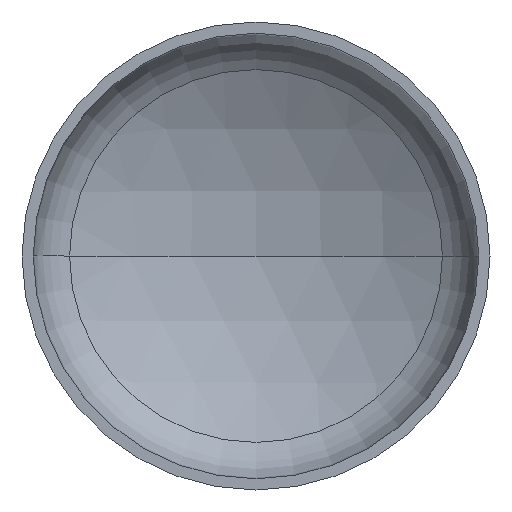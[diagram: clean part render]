
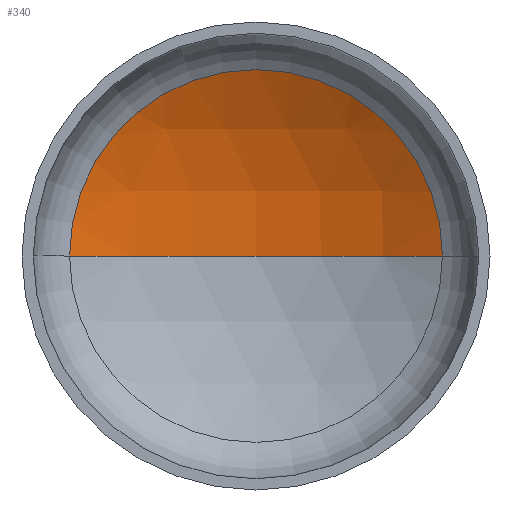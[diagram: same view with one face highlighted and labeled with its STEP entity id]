
A CAD part, front view. The second image highlights one B-rep face of the part: STEP entity #340.
In plain terms, the highlighted spherical face has radius 2720 mm.
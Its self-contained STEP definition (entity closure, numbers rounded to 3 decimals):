
#19 = VERTEX_POINT ( 'NONE', #241 ) ;
#20 = VERTEX_POINT ( 'NONE', #39 ) ;
#24 = AXIS2_PLACEMENT_3D ( 'NONE', #97, #84, #202 ) ;
#28 = AXIS2_PLACEMENT_3D ( 'NONE', #173, #179, #242 ) ;
#33 = AXIS2_PLACEMENT_3D ( 'NONE', #290, #303, #301 ) ;
#39 = CARTESIAN_POINT ( 'NONE',  ( 1354.424, 555.283, 0. ) ) ;
#49 = ORIENTED_EDGE ( 'NONE', *, *, #88, .T. ) ;
#64 = ORIENTED_EDGE ( 'NONE', *, *, #130, .T. ) ;
#84 = DIRECTION ( 'NONE',  ( 0., 0., 1. ) ) ;
#88 = EDGE_CURVE ( 'NONE', #20, #138, #355, .T. ) ;
#97 = CARTESIAN_POINT ( 'NONE',  ( 0., -1803.517, 0. ) ) ;
#101 = FACE_OUTER_BOUND ( 'NONE', #167, .T. ) ;
#112 = ORIENTED_EDGE ( 'NONE', *, *, #165, .F. ) ;
#130 = EDGE_CURVE ( 'NONE', #19, #20, #284, .T. ) ;
#138 = VERTEX_POINT ( 'NONE', #292 ) ;
#165 = EDGE_CURVE ( 'NONE', #19, #138, #235, .T. ) ;
#167 = EDGE_LOOP ( 'NONE', ( #112, #64, #49 ) ) ;
#173 = CARTESIAN_POINT ( 'NONE',  ( 0., -1803.517, 0. ) ) ;
#179 = DIRECTION ( 'NONE',  ( 0., 0., -1. ) ) ;
#202 = DIRECTION ( 'NONE',  ( 1., 0., 0. ) ) ;
#232 = CARTESIAN_POINT ( 'NONE',  ( 0., -1803.517, 0. ) ) ;
#235 = CIRCLE ( 'NONE', #24, 2720. ) ;
#241 = CARTESIAN_POINT ( 'NONE',  ( 0., 916.483, 0. ) ) ;
#242 = DIRECTION ( 'NONE',  ( -1., 0., 0. ) ) ;
#258 = SPHERICAL_SURFACE ( 'NONE', #339, 2720. ) ;
#284 = CIRCLE ( 'NONE', #28, 2720. ) ;
#290 = CARTESIAN_POINT ( 'NONE',  ( 0., 555.283, 0. ) ) ;
#292 = CARTESIAN_POINT ( 'NONE',  ( -1354.424, 555.283, 0. ) ) ;
#293 = DIRECTION ( 'NONE',  ( -1., 0., 0. ) ) ;
#301 = DIRECTION ( 'NONE',  ( 1., 0., 0. ) ) ;
#303 = DIRECTION ( 'NONE',  ( 0., -1., 0. ) ) ;
#339 = AXIS2_PLACEMENT_3D ( 'NONE', #232, #405, #293 ) ;
#340 = ADVANCED_FACE ( 'NONE', ( #101 ), #258, .F. ) ;
#355 = CIRCLE ( 'NONE', #33, 1354.424 ) ;
#405 = DIRECTION ( 'NONE',  ( 0., 0., -1. ) ) ;
